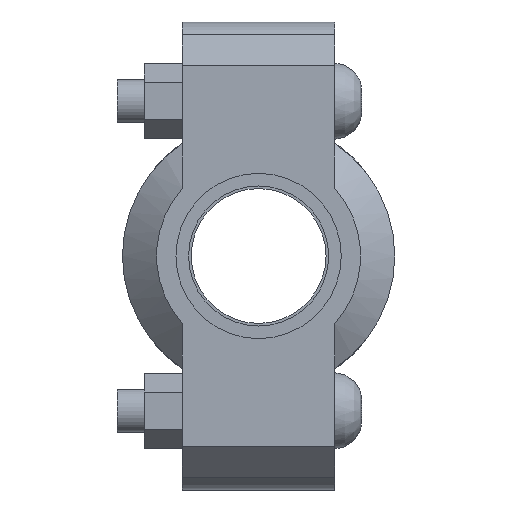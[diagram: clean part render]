
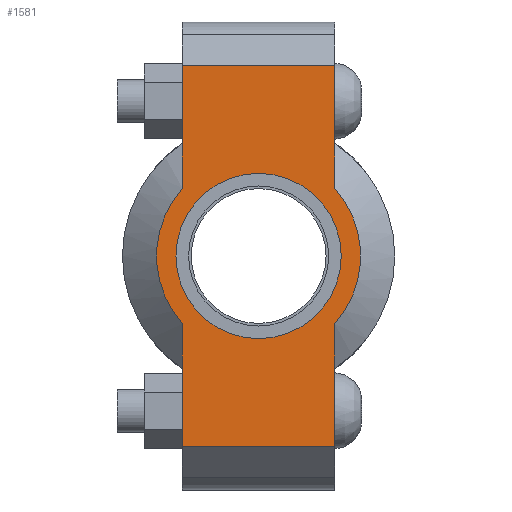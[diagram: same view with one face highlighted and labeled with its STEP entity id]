
A CAD part, left-side view. The second image highlights one B-rep face of the part: STEP entity #1581.
In plain terms, the highlighted planar face has unit normal (-1, 0, 0) as drawn and (0, 0, 1) by its records, which use the part's own axes.
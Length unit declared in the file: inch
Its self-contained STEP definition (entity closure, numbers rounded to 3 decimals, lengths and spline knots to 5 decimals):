
#136=LINE('',#2733,#233);
#151=LINE('',#2792,#248);
#159=LINE('',#2822,#256);
#161=LINE('',#2825,#258);
#162=LINE('',#2830,#259);
#163=LINE('',#2831,#260);
#233=VECTOR('',#2229,0.3937);
#248=VECTOR('',#2264,0.3937);
#256=VECTOR('',#2284,0.3937);
#258=VECTOR('',#2288,0.3937);
#259=VECTOR('',#2293,0.3937);
#260=VECTOR('',#2294,0.3937);
#324=FACE_BOUND('',#501,.T.);
#392=FACE_OUTER_BOUND('',#500,.T.);
#500=EDGE_LOOP('',(#1282,#1283,#1284,#1285,#1286,#1287,#1288,#1289));
#501=EDGE_LOOP('',(#1290));
#583=CIRCLE('',#1809,0.95);
#607=CIRCLE('',#1861,1.172);
#608=CIRCLE('',#1862,1.172);
#679=VERTEX_POINT('',#2559);
#720=VERTEX_POINT('',#2730);
#721=VERTEX_POINT('',#2732);
#742=VERTEX_POINT('',#2787);
#743=VERTEX_POINT('',#2791);
#752=VERTEX_POINT('',#2817);
#753=VERTEX_POINT('',#2821);
#754=VERTEX_POINT('',#2827);
#755=VERTEX_POINT('',#2829);
#843=EDGE_CURVE('',#679,#679,#583,.T.);
#900=EDGE_CURVE('',#721,#720,#136,.T.);
#925=EDGE_CURVE('',#743,#742,#151,.T.);
#938=EDGE_CURVE('',#753,#752,#159,.T.);
#940=EDGE_CURVE('',#753,#720,#161,.T.);
#941=EDGE_CURVE('',#752,#754,#607,.T.);
#942=EDGE_CURVE('',#754,#755,#162,.T.);
#943=EDGE_CURVE('',#743,#755,#163,.T.);
#944=EDGE_CURVE('',#742,#721,#608,.T.);
#1282=ORIENTED_EDGE('',*,*,#940,.F.);
#1283=ORIENTED_EDGE('',*,*,#938,.T.);
#1284=ORIENTED_EDGE('',*,*,#941,.T.);
#1285=ORIENTED_EDGE('',*,*,#942,.T.);
#1286=ORIENTED_EDGE('',*,*,#943,.F.);
#1287=ORIENTED_EDGE('',*,*,#925,.T.);
#1288=ORIENTED_EDGE('',*,*,#944,.T.);
#1289=ORIENTED_EDGE('',*,*,#900,.T.);
#1290=ORIENTED_EDGE('',*,*,#843,.T.);
#1421=PLANE('',#1860);
#1581=ADVANCED_FACE('',(#392,#324),#1421,.T.);
#1809=AXIS2_PLACEMENT_3D('',#2561,#2119,#2120);
#1860=AXIS2_PLACEMENT_3D('',#2826,#2289,#2290);
#1861=AXIS2_PLACEMENT_3D('',#2828,#2291,#2292);
#1862=AXIS2_PLACEMENT_3D('',#2832,#2295,#2296);
#2119=DIRECTION('center_axis',(0.,0.,-1.));
#2120=DIRECTION('ref_axis',(-1.,0.,0.));
#2229=DIRECTION('',(-1.,0.,0.));
#2264=DIRECTION('',(-1.,0.,0.));
#2284=DIRECTION('',(1.,0.,0.));
#2288=DIRECTION('',(0.,1.,0.));
#2289=DIRECTION('center_axis',(0.,0.,1.));
#2290=DIRECTION('ref_axis',(1.,0.,0.));
#2291=DIRECTION('center_axis',(0.,0.,1.));
#2292=DIRECTION('ref_axis',(-1.,0.,0.));
#2293=DIRECTION('',(1.,0.,0.));
#2294=DIRECTION('',(0.,-1.,0.));
#2295=DIRECTION('center_axis',(0.,0.,1.));
#2296=DIRECTION('ref_axis',(-1.,0.,0.));
#2559=CARTESIAN_POINT('',(0.95,0.,0.94));
#2561=CARTESIAN_POINT('Origin',(0.,0.,0.94));
#2730=CARTESIAN_POINT('',(-2.19,0.875,0.94));
#2732=CARTESIAN_POINT('',(-0.77972,0.875,0.94));
#2733=CARTESIAN_POINT('',(2.69,0.875,0.94));
#2787=CARTESIAN_POINT('',(0.77972,0.875,0.94));
#2791=CARTESIAN_POINT('',(2.19,0.875,0.94));
#2792=CARTESIAN_POINT('',(2.69,0.875,0.94));
#2817=CARTESIAN_POINT('',(-0.77972,-0.875,0.94));
#2821=CARTESIAN_POINT('',(-2.19,-0.875,0.94));
#2822=CARTESIAN_POINT('',(-2.69,-0.875,0.94));
#2825=CARTESIAN_POINT('',(-2.19,0.4375,0.94));
#2826=CARTESIAN_POINT('Origin',(0.,0.,0.94));
#2827=CARTESIAN_POINT('',(0.77972,-0.875,0.94));
#2828=CARTESIAN_POINT('Origin',(0.,0.,0.94));
#2829=CARTESIAN_POINT('',(2.19,-0.875,0.94));
#2830=CARTESIAN_POINT('',(-2.69,-0.875,0.94));
#2831=CARTESIAN_POINT('',(2.19,-0.4375,0.94));
#2832=CARTESIAN_POINT('Origin',(0.,0.,0.94));
